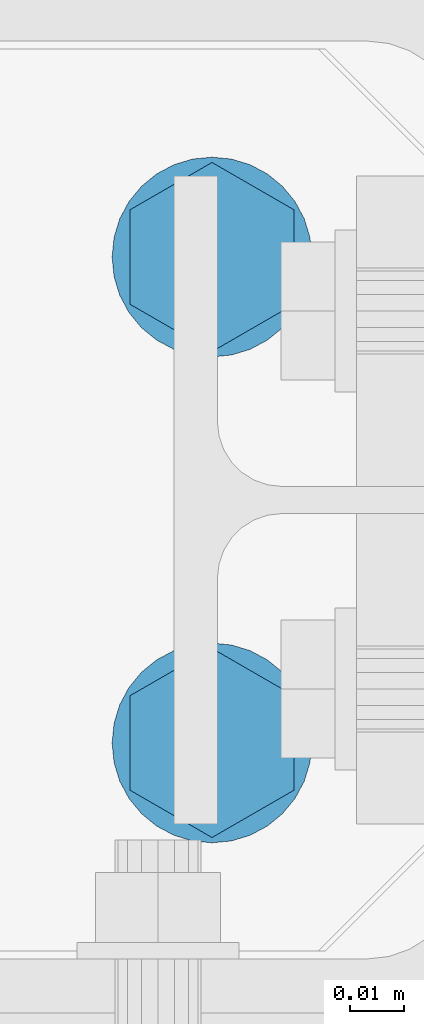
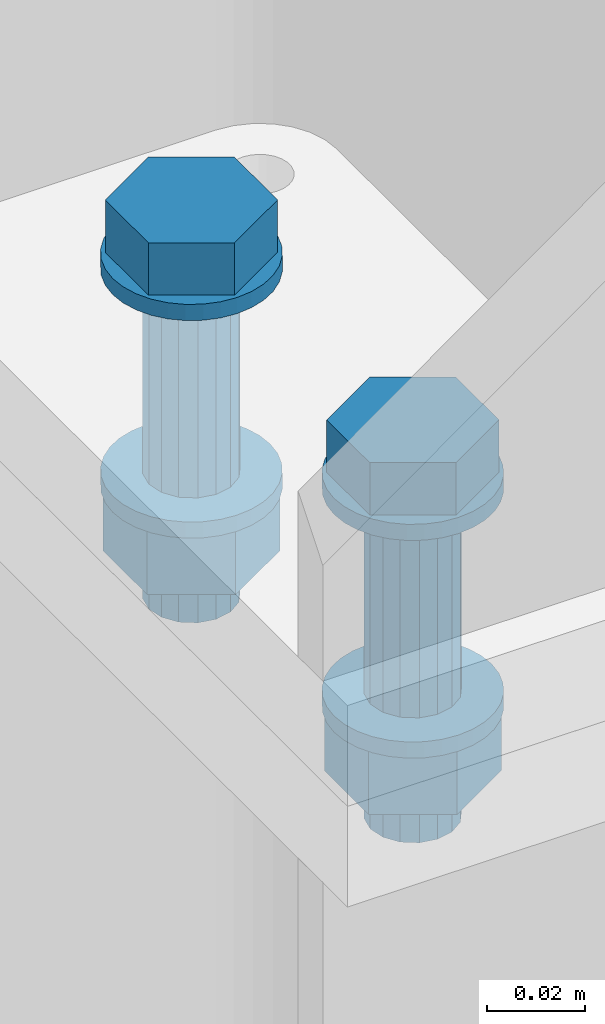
# One storey, part 385 of 825: 1 mechanical fastener.
"""IFC2X3 building model written with IfcOpenShell, lengths in millimetres."""

from ifc_helpers import new_model, entity, si_unit, converted_unit, origin_with_axes, place, context, project, spatial, faceted_brep, element, save


model = new_model("IFC2X3")

# Units and contexts
model_context = context("Model", 3, precision=1e-09, world=origin_with_axes())
ifc_project = project(units=[si_unit("LENGTHUNIT", "METRE", prefix="MILLI"), si_unit("AREAUNIT", "SQUARE_METRE"), si_unit("VOLUMEUNIT", "CUBIC_METRE"), converted_unit("PLANEANGLEUNIT", "DEGREE", entity("IfcPlaneAngleMeasure", 0.01745329), si_unit("PLANEANGLEUNIT", "RADIAN"), dimensions=[0, 0, 0, 0, 0, 0, 0])], contexts=[model_context])

# Site, building, storey
site_placement = place(None, origin_with_axes())
site = spatial("IfcSite", under=ifc_project, at=site_placement, Name="Cnopf'sche Kinderklinik", CompositionType="ELEMENT")
building_placement = place(site_placement, origin_with_axes())
building = spatial("IfcBuilding", under=site, at=building_placement, Name="Struktur 1", CompositionType="ELEMENT")
storey_placement = place(building_placement, origin_with_axes())
storey = spatial("IfcBuildingStorey", under=building, at=storey_placement, Name="Default Storey", CompositionType="ELEMENT", Elevation=0.0)

# Mechanical fastener
mechanical_fastener_placement = place(None, origin_with_axes())
element("IfcMechanicalFastener", 1, at=mechanical_fastener_placement, inside=storey, ObjectType="Bolt#1", NominalDiameter=20.0, NominalLength=85.0, context=model_context, shape_type="Brep", body=[
    faceted_brep([(4825.213402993, 7561.736971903, 7675.0), (4825.213402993, 7561.736971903, 7679.0), (4824.857930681, 7558.127800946, 7679.0), (4824.857930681, 7558.127800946, 7675.0), (4823.805174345, 7554.657328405, 7679.0), (4823.805174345, 7554.657328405, 7675.0), (4822.095590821, 7551.458922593, 7679.0), (4822.095590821, 7551.458922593, 7675.0), (4819.794878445, 7548.655496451, 7679.0), (4819.794878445, 7548.655496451, 7675.0), (4816.991452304, 7546.354784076, 7679.0), (4816.991452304, 7546.354784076, 7675.0), (4813.793046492, 7544.645200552, 7679.0), (4813.793046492, 7544.645200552, 7675.0), (4810.32257395, 7543.592444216, 7679.0), (4810.32257395, 7543.592444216, 7675.0), (4806.713402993, 7543.236971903, 7679.0), (4806.713402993, 7543.236971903, 7675.0), (4803.104232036, 7543.592444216, 7679.0), (4803.104232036, 7543.592444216, 7675.0), (4799.633759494, 7544.645200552, 7679.0), (4799.633759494, 7544.645200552, 7675.0), (4796.435353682, 7546.354784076, 7679.0), (4796.435353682, 7546.354784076, 7675.0), (4793.631927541, 7548.655496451, 7679.0), (4793.631927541, 7548.655496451, 7675.0), (4791.331215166, 7551.458922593, 7679.0), (4791.331215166, 7551.458922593, 7675.0), (4789.621631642, 7554.657328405, 7679.0), (4789.621631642, 7554.657328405, 7675.0), (4788.568875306, 7558.127800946, 7679.0), (4788.568875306, 7558.127800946, 7675.0), (4788.213402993, 7561.736971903, 7679.0), (4788.213402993, 7561.736971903, 7675.0), (4788.568875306, 7565.346142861, 7679.0), (4788.568875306, 7565.346142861, 7675.0), (4789.621631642, 7568.816615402, 7679.0), (4789.621631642, 7568.816615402, 7675.0), (4791.331215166, 7572.015021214, 7679.0), (4791.331215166, 7572.015021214, 7675.0), (4793.631927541, 7574.818447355, 7679.0), (4793.631927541, 7574.818447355, 7675.0), (4796.435353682, 7577.119159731, 7679.0), (4796.435353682, 7577.119159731, 7675.0), (4799.633759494, 7578.828743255, 7679.0), (4799.633759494, 7578.828743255, 7675.0), (4803.104232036, 7579.881499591, 7679.0), (4803.104232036, 7579.881499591, 7675.0), (4806.713402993, 7580.236971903, 7679.0), (4806.713402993, 7580.236971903, 7675.0), (4810.32257395, 7579.881499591, 7679.0), (4810.32257395, 7579.881499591, 7675.0), (4813.793046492, 7578.828743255, 7679.0), (4813.793046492, 7578.828743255, 7675.0), (4816.991452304, 7577.119159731, 7679.0), (4816.991452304, 7577.119159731, 7675.0), (4819.794878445, 7574.818447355, 7679.0), (4819.794878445, 7574.818447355, 7675.0), (4822.095590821, 7572.015021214, 7679.0), (4822.095590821, 7572.015021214, 7675.0), (4823.805174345, 7568.816615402, 7679.0), (4823.805174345, 7568.816615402, 7675.0), (4824.857930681, 7565.346142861, 7679.0), (4824.857930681, 7565.346142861, 7675.0)], [[[0, 1, 2, 3]], [[3, 2, 4, 5]], [[5, 4, 6, 7]], [[7, 6, 8, 9]], [[9, 8, 10, 11]], [[11, 10, 12, 13]], [[13, 12, 14, 15]], [[15, 14, 16, 17]], [[17, 16, 18, 19]], [[19, 18, 20, 21]], [[21, 20, 22, 23]], [[23, 22, 24, 25]], [[25, 24, 26, 27]], [[27, 26, 28, 29]], [[29, 28, 30, 31]], [[31, 30, 32, 33]], [[33, 32, 34, 35]], [[35, 34, 36, 37]], [[37, 36, 38, 39]], [[39, 38, 40, 41]], [[41, 40, 42, 43]], [[43, 42, 44, 45]], [[45, 44, 46, 47]], [[47, 46, 48, 49]], [[49, 48, 50, 51]], [[51, 50, 52, 53]], [[53, 52, 54, 55]], [[55, 54, 56, 57]], [[57, 56, 58, 59]], [[59, 58, 60, 61]], [[61, 60, 62, 63]], [[63, 62, 1, 0]], [[2, 1, 62, 60, 58, 56, 54, 52, 50, 48, 46, 44, 42, 40, 38, 36, 34, 32, 30, 28, 26, 24, 22, 20, 18, 16, 14, 12, 10, 8, 6, 4]], [[63, 0, 3, 5, 7, 9, 11, 13, 15, 17, 19, 21, 23, 25, 27, 29, 31, 33, 35, 37, 39, 41, 43, 45, 47, 49, 51, 53, 55, 57, 59, 61]]]),
    faceted_brep([(4825.213402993, 7471.736971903, 7675.0), (4825.213402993, 7471.736971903, 7679.0), (4824.857930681, 7468.127800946, 7679.0), (4824.857930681, 7468.127800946, 7675.0), (4823.805174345, 7464.657328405, 7679.0), (4823.805174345, 7464.657328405, 7675.0), (4822.095590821, 7461.458922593, 7679.0), (4822.095590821, 7461.458922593, 7675.0), (4819.794878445, 7458.655496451, 7679.0), (4819.794878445, 7458.655496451, 7675.0), (4816.991452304, 7456.354784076, 7679.0), (4816.991452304, 7456.354784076, 7675.0), (4813.793046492, 7454.645200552, 7679.0), (4813.793046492, 7454.645200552, 7675.0), (4810.32257395, 7453.592444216, 7679.0), (4810.32257395, 7453.592444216, 7675.0), (4806.713402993, 7453.236971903, 7679.0), (4806.713402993, 7453.236971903, 7675.0), (4803.104232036, 7453.592444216, 7679.0), (4803.104232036, 7453.592444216, 7675.0), (4799.633759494, 7454.645200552, 7679.0), (4799.633759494, 7454.645200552, 7675.0), (4796.435353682, 7456.354784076, 7679.0), (4796.435353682, 7456.354784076, 7675.0), (4793.631927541, 7458.655496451, 7679.0), (4793.631927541, 7458.655496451, 7675.0), (4791.331215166, 7461.458922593, 7679.0), (4791.331215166, 7461.458922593, 7675.0), (4789.621631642, 7464.657328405, 7679.0), (4789.621631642, 7464.657328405, 7675.0), (4788.568875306, 7468.127800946, 7679.0), (4788.568875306, 7468.127800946, 7675.0), (4788.213402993, 7471.736971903, 7679.0), (4788.213402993, 7471.736971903, 7675.0), (4788.568875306, 7475.346142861, 7679.0), (4788.568875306, 7475.346142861, 7675.0), (4789.621631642, 7478.816615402, 7679.0), (4789.621631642, 7478.816615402, 7675.0), (4791.331215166, 7482.015021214, 7679.0), (4791.331215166, 7482.015021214, 7675.0), (4793.631927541, 7484.818447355, 7679.0), (4793.631927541, 7484.818447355, 7675.0), (4796.435353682, 7487.119159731, 7679.0), (4796.435353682, 7487.119159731, 7675.0), (4799.633759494, 7488.828743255, 7679.0), (4799.633759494, 7488.828743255, 7675.0), (4803.104232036, 7489.881499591, 7679.0), (4803.104232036, 7489.881499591, 7675.0), (4806.713402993, 7490.236971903, 7679.0), (4806.713402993, 7490.236971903, 7675.0), (4810.32257395, 7489.881499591, 7679.0), (4810.32257395, 7489.881499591, 7675.0), (4813.793046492, 7488.828743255, 7679.0), (4813.793046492, 7488.828743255, 7675.0), (4816.991452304, 7487.119159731, 7679.0), (4816.991452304, 7487.119159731, 7675.0), (4819.794878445, 7484.818447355, 7679.0), (4819.794878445, 7484.818447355, 7675.0), (4822.095590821, 7482.015021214, 7679.0), (4822.095590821, 7482.015021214, 7675.0), (4823.805174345, 7478.816615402, 7679.0), (4823.805174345, 7478.816615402, 7675.0), (4824.857930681, 7475.346142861, 7679.0), (4824.857930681, 7475.346142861, 7675.0)], [[[0, 1, 2, 3]], [[3, 2, 4, 5]], [[5, 4, 6, 7]], [[7, 6, 8, 9]], [[9, 8, 10, 11]], [[11, 10, 12, 13]], [[13, 12, 14, 15]], [[15, 14, 16, 17]], [[17, 16, 18, 19]], [[19, 18, 20, 21]], [[21, 20, 22, 23]], [[23, 22, 24, 25]], [[25, 24, 26, 27]], [[27, 26, 28, 29]], [[29, 28, 30, 31]], [[31, 30, 32, 33]], [[33, 32, 34, 35]], [[35, 34, 36, 37]], [[37, 36, 38, 39]], [[39, 38, 40, 41]], [[41, 40, 42, 43]], [[43, 42, 44, 45]], [[45, 44, 46, 47]], [[47, 46, 48, 49]], [[49, 48, 50, 51]], [[51, 50, 52, 53]], [[53, 52, 54, 55]], [[55, 54, 56, 57]], [[57, 56, 58, 59]], [[59, 58, 60, 61]], [[61, 60, 62, 63]], [[63, 62, 1, 0]], [[2, 1, 62, 60, 58, 56, 54, 52, 50, 48, 46, 44, 42, 40, 38, 36, 34, 32, 30, 28, 26, 24, 22, 20, 18, 16, 14, 12, 10, 8, 6, 4]], [[63, 0, 3, 5, 7, 9, 11, 13, 15, 17, 19, 21, 23, 25, 27, 29, 31, 33, 35, 37, 39, 41, 43, 45, 47, 49, 51, 53, 55, 57, 59, 61]]]),
    faceted_brep([(4791.544968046, 7552.979471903, 7692.0), (4791.544968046, 7552.979471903, 7679.0), (4806.713402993, 7544.221971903, 7679.0), (4806.713402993, 7544.221971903, 7692.0), (4821.88183794, 7552.979471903, 7679.0), (4821.88183794, 7552.979471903, 7692.0), (4821.88183794, 7570.494471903, 7679.0), (4821.88183794, 7570.494471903, 7692.0), (4806.713402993, 7579.251971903, 7679.0), (4806.713402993, 7579.251971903, 7692.0), (4791.544968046, 7570.494471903, 7679.0), (4791.544968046, 7570.494471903, 7692.0)], [[[0, 1, 2, 3]], [[3, 2, 4, 5]], [[5, 4, 6, 7]], [[7, 6, 8, 9]], [[9, 8, 10, 11]], [[11, 10, 1, 0]], [[3, 5, 7, 9, 11, 0]], [[2, 1, 10, 8, 6, 4]]]),
    faceted_brep([(4791.544968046, 7462.979471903, 7692.0), (4791.544968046, 7462.979471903, 7679.0), (4806.713402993, 7454.221971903, 7679.0), (4806.713402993, 7454.221971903, 7692.0), (4821.88183794, 7462.979471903, 7679.0), (4821.88183794, 7462.979471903, 7692.0), (4821.88183794, 7480.494471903, 7679.0), (4821.88183794, 7480.494471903, 7692.0), (4806.713402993, 7489.251971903, 7679.0), (4806.713402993, 7489.251971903, 7692.0), (4791.544968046, 7480.494471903, 7679.0), (4791.544968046, 7480.494471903, 7692.0)], [[[0, 1, 2, 3]], [[3, 2, 4, 5]], [[5, 4, 6, 7]], [[7, 6, 8, 9]], [[9, 8, 10, 11]], [[11, 10, 1, 0]], [[3, 5, 7, 9, 11, 0]], [[2, 1, 10, 8, 6, 4]]]),
    faceted_brep([(4816.713402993, 7561.736971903, 7625.0), (4816.713402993, 7561.736971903, 7675.0), (4815.952198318, 7557.91013758, 7675.0), (4815.952198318, 7557.91013758, 7625.0), (4813.784470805, 7554.665904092, 7675.0), (4813.784470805, 7554.665904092, 7625.0), (4810.540237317, 7552.498176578, 7675.0), (4810.540237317, 7552.498176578, 7625.0), (4806.713402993, 7551.736971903, 7675.0), (4806.713402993, 7551.736971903, 7625.0), (4802.88656867, 7552.498176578, 7675.0), (4802.88656867, 7552.498176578, 7625.0), (4799.642335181, 7554.665904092, 7675.0), (4799.642335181, 7554.665904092, 7625.0), (4797.474607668, 7557.91013758, 7675.0), (4797.474607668, 7557.91013758, 7625.0), (4796.713402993, 7561.736971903, 7675.0), (4796.713402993, 7561.736971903, 7625.0), (4797.474607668, 7565.563806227, 7675.0), (4797.474607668, 7565.563806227, 7625.0), (4799.642335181, 7568.808039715, 7675.0), (4799.642335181, 7568.808039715, 7625.0), (4802.88656867, 7570.975767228, 7675.0), (4802.88656867, 7570.975767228, 7625.0), (4806.713402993, 7571.736971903, 7675.0), (4806.713402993, 7571.736971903, 7625.0), (4810.540237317, 7570.975767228, 7675.0), (4810.540237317, 7570.975767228, 7625.0), (4813.784470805, 7568.808039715, 7675.0), (4813.784470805, 7568.808039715, 7625.0), (4815.952198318, 7565.563806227, 7675.0), (4815.952198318, 7565.563806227, 7625.0)], [[[0, 1, 2, 3]], [[3, 2, 4, 5]], [[5, 4, 6, 7]], [[7, 6, 8, 9]], [[9, 8, 10, 11]], [[11, 10, 12, 13]], [[13, 12, 14, 15]], [[15, 14, 16, 17]], [[17, 16, 18, 19]], [[19, 18, 20, 21]], [[21, 20, 22, 23]], [[23, 22, 24, 25]], [[25, 24, 26, 27]], [[27, 26, 28, 29]], [[29, 28, 30, 31]], [[31, 30, 1, 0]], [[2, 1, 30, 28, 26, 24, 22, 20, 18, 16, 14, 12, 10, 8, 6, 4]], [[31, 0, 3, 5, 7, 9, 11, 13, 15, 17, 19, 21, 23, 25, 27, 29]]]),
    faceted_brep([(4816.713402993, 7471.736971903, 7625.0), (4816.713402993, 7471.736971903, 7675.0), (4815.952198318, 7467.91013758, 7675.0), (4815.952198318, 7467.91013758, 7625.0), (4813.784470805, 7464.665904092, 7675.0), (4813.784470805, 7464.665904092, 7625.0), (4810.540237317, 7462.498176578, 7675.0), (4810.540237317, 7462.498176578, 7625.0), (4806.713402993, 7461.736971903, 7675.0), (4806.713402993, 7461.736971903, 7625.0), (4802.88656867, 7462.498176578, 7675.0), (4802.88656867, 7462.498176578, 7625.0), (4799.642335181, 7464.665904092, 7675.0), (4799.642335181, 7464.665904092, 7625.0), (4797.474607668, 7467.91013758, 7675.0), (4797.474607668, 7467.91013758, 7625.0), (4796.713402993, 7471.736971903, 7675.0), (4796.713402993, 7471.736971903, 7625.0), (4797.474607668, 7475.563806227, 7675.0), (4797.474607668, 7475.563806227, 7625.0), (4799.642335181, 7478.808039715, 7675.0), (4799.642335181, 7478.808039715, 7625.0), (4802.88656867, 7480.975767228, 7675.0), (4802.88656867, 7480.975767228, 7625.0), (4806.713402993, 7481.736971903, 7675.0), (4806.713402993, 7481.736971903, 7625.0), (4810.540237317, 7480.975767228, 7675.0), (4810.540237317, 7480.975767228, 7625.0), (4813.784470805, 7478.808039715, 7675.0), (4813.784470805, 7478.808039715, 7625.0), (4815.952198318, 7475.563806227, 7675.0), (4815.952198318, 7475.563806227, 7625.0)], [[[0, 1, 2, 3]], [[3, 2, 4, 5]], [[5, 4, 6, 7]], [[7, 6, 8, 9]], [[9, 8, 10, 11]], [[11, 10, 12, 13]], [[13, 12, 14, 15]], [[15, 14, 16, 17]], [[17, 16, 18, 19]], [[19, 18, 20, 21]], [[21, 20, 22, 23]], [[23, 22, 24, 25]], [[25, 24, 26, 27]], [[27, 26, 28, 29]], [[29, 28, 30, 31]], [[31, 30, 1, 0]], [[2, 1, 30, 28, 26, 24, 22, 20, 18, 16, 14, 12, 10, 8, 6, 4]], [[31, 0, 3, 5, 7, 9, 11, 13, 15, 17, 19, 21, 23, 25, 27, 29]]]),
    faceted_brep([(4825.213402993, 7561.736971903, 7621.0), (4825.213402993, 7561.736971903, 7625.0), (4824.857930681, 7558.127800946, 7625.0), (4824.857930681, 7558.127800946, 7621.0), (4823.805174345, 7554.657328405, 7625.0), (4823.805174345, 7554.657328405, 7621.0), (4822.095590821, 7551.458922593, 7625.0), (4822.095590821, 7551.458922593, 7621.0), (4819.794878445, 7548.655496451, 7625.0), (4819.794878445, 7548.655496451, 7621.0), (4816.991452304, 7546.354784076, 7625.0), (4816.991452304, 7546.354784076, 7621.0), (4813.793046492, 7544.645200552, 7625.0), (4813.793046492, 7544.645200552, 7621.0), (4810.32257395, 7543.592444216, 7625.0), (4810.32257395, 7543.592444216, 7621.0), (4806.713402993, 7543.236971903, 7625.0), (4806.713402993, 7543.236971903, 7621.0), (4803.104232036, 7543.592444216, 7625.0), (4803.104232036, 7543.592444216, 7621.0), (4799.633759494, 7544.645200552, 7625.0), (4799.633759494, 7544.645200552, 7621.0), (4796.435353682, 7546.354784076, 7625.0), (4796.435353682, 7546.354784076, 7621.0), (4793.631927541, 7548.655496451, 7625.0), (4793.631927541, 7548.655496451, 7621.0), (4791.331215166, 7551.458922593, 7625.0), (4791.331215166, 7551.458922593, 7621.0), (4789.621631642, 7554.657328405, 7625.0), (4789.621631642, 7554.657328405, 7621.0), (4788.568875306, 7558.127800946, 7625.0), (4788.568875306, 7558.127800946, 7621.0), (4788.213402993, 7561.736971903, 7625.0), (4788.213402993, 7561.736971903, 7621.0), (4788.568875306, 7565.346142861, 7625.0), (4788.568875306, 7565.346142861, 7621.0), (4789.621631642, 7568.816615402, 7625.0), (4789.621631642, 7568.816615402, 7621.0), (4791.331215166, 7572.015021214, 7625.0), (4791.331215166, 7572.015021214, 7621.0), (4793.631927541, 7574.818447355, 7625.0), (4793.631927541, 7574.818447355, 7621.0), (4796.435353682, 7577.119159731, 7625.0), (4796.435353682, 7577.119159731, 7621.0), (4799.633759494, 7578.828743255, 7625.0), (4799.633759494, 7578.828743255, 7621.0), (4803.104232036, 7579.881499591, 7625.0), (4803.104232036, 7579.881499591, 7621.0), (4806.713402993, 7580.236971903, 7625.0), (4806.713402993, 7580.236971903, 7621.0), (4810.32257395, 7579.881499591, 7625.0), (4810.32257395, 7579.881499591, 7621.0), (4813.793046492, 7578.828743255, 7625.0), (4813.793046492, 7578.828743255, 7621.0), (4816.991452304, 7577.119159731, 7625.0), (4816.991452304, 7577.119159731, 7621.0), (4819.794878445, 7574.818447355, 7625.0), (4819.794878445, 7574.818447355, 7621.0), (4822.095590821, 7572.015021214, 7625.0), (4822.095590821, 7572.015021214, 7621.0), (4823.805174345, 7568.816615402, 7625.0), (4823.805174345, 7568.816615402, 7621.0), (4824.857930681, 7565.346142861, 7625.0), (4824.857930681, 7565.346142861, 7621.0)], [[[0, 1, 2, 3]], [[3, 2, 4, 5]], [[5, 4, 6, 7]], [[7, 6, 8, 9]], [[9, 8, 10, 11]], [[11, 10, 12, 13]], [[13, 12, 14, 15]], [[15, 14, 16, 17]], [[17, 16, 18, 19]], [[19, 18, 20, 21]], [[21, 20, 22, 23]], [[23, 22, 24, 25]], [[25, 24, 26, 27]], [[27, 26, 28, 29]], [[29, 28, 30, 31]], [[31, 30, 32, 33]], [[33, 32, 34, 35]], [[35, 34, 36, 37]], [[37, 36, 38, 39]], [[39, 38, 40, 41]], [[41, 40, 42, 43]], [[43, 42, 44, 45]], [[45, 44, 46, 47]], [[47, 46, 48, 49]], [[49, 48, 50, 51]], [[51, 50, 52, 53]], [[53, 52, 54, 55]], [[55, 54, 56, 57]], [[57, 56, 58, 59]], [[59, 58, 60, 61]], [[61, 60, 62, 63]], [[63, 62, 1, 0]], [[2, 1, 62, 60, 58, 56, 54, 52, 50, 48, 46, 44, 42, 40, 38, 36, 34, 32, 30, 28, 26, 24, 22, 20, 18, 16, 14, 12, 10, 8, 6, 4]], [[63, 0, 3, 5, 7, 9, 11, 13, 15, 17, 19, 21, 23, 25, 27, 29, 31, 33, 35, 37, 39, 41, 43, 45, 47, 49, 51, 53, 55, 57, 59, 61]]]),
    faceted_brep([(4825.213402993, 7471.736971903, 7621.0), (4825.213402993, 7471.736971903, 7625.0), (4824.857930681, 7468.127800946, 7625.0), (4824.857930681, 7468.127800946, 7621.0), (4823.805174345, 7464.657328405, 7625.0), (4823.805174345, 7464.657328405, 7621.0), (4822.095590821, 7461.458922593, 7625.0), (4822.095590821, 7461.458922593, 7621.0), (4819.794878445, 7458.655496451, 7625.0), (4819.794878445, 7458.655496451, 7621.0), (4816.991452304, 7456.354784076, 7625.0), (4816.991452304, 7456.354784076, 7621.0), (4813.793046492, 7454.645200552, 7625.0), (4813.793046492, 7454.645200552, 7621.0), (4810.32257395, 7453.592444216, 7625.0), (4810.32257395, 7453.592444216, 7621.0), (4806.713402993, 7453.236971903, 7625.0), (4806.713402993, 7453.236971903, 7621.0), (4803.104232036, 7453.592444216, 7625.0), (4803.104232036, 7453.592444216, 7621.0), (4799.633759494, 7454.645200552, 7625.0), (4799.633759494, 7454.645200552, 7621.0), (4796.435353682, 7456.354784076, 7625.0), (4796.435353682, 7456.354784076, 7621.0), (4793.631927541, 7458.655496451, 7625.0), (4793.631927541, 7458.655496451, 7621.0), (4791.331215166, 7461.458922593, 7625.0), (4791.331215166, 7461.458922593, 7621.0), (4789.621631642, 7464.657328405, 7625.0), (4789.621631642, 7464.657328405, 7621.0), (4788.568875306, 7468.127800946, 7625.0), (4788.568875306, 7468.127800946, 7621.0), (4788.213402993, 7471.736971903, 7625.0), (4788.213402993, 7471.736971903, 7621.0), (4788.568875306, 7475.346142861, 7625.0), (4788.568875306, 7475.346142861, 7621.0), (4789.621631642, 7478.816615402, 7625.0), (4789.621631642, 7478.816615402, 7621.0), (4791.331215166, 7482.015021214, 7625.0), (4791.331215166, 7482.015021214, 7621.0), (4793.631927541, 7484.818447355, 7625.0), (4793.631927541, 7484.818447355, 7621.0), (4796.435353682, 7487.119159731, 7625.0), (4796.435353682, 7487.119159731, 7621.0), (4799.633759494, 7488.828743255, 7625.0), (4799.633759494, 7488.828743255, 7621.0), (4803.104232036, 7489.881499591, 7625.0), (4803.104232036, 7489.881499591, 7621.0), (4806.713402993, 7490.236971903, 7625.0), (4806.713402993, 7490.236971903, 7621.0), (4810.32257395, 7489.881499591, 7625.0), (4810.32257395, 7489.881499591, 7621.0), (4813.793046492, 7488.828743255, 7625.0), (4813.793046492, 7488.828743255, 7621.0), (4816.991452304, 7487.119159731, 7625.0), (4816.991452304, 7487.119159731, 7621.0), (4819.794878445, 7484.818447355, 7625.0), (4819.794878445, 7484.818447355, 7621.0), (4822.095590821, 7482.015021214, 7625.0), (4822.095590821, 7482.015021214, 7621.0), (4823.805174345, 7478.816615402, 7625.0), (4823.805174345, 7478.816615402, 7621.0), (4824.857930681, 7475.346142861, 7625.0), (4824.857930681, 7475.346142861, 7621.0)], [[[0, 1, 2, 3]], [[3, 2, 4, 5]], [[5, 4, 6, 7]], [[7, 6, 8, 9]], [[9, 8, 10, 11]], [[11, 10, 12, 13]], [[13, 12, 14, 15]], [[15, 14, 16, 17]], [[17, 16, 18, 19]], [[19, 18, 20, 21]], [[21, 20, 22, 23]], [[23, 22, 24, 25]], [[25, 24, 26, 27]], [[27, 26, 28, 29]], [[29, 28, 30, 31]], [[31, 30, 32, 33]], [[33, 32, 34, 35]], [[35, 34, 36, 37]], [[37, 36, 38, 39]], [[39, 38, 40, 41]], [[41, 40, 42, 43]], [[43, 42, 44, 45]], [[45, 44, 46, 47]], [[47, 46, 48, 49]], [[49, 48, 50, 51]], [[51, 50, 52, 53]], [[53, 52, 54, 55]], [[55, 54, 56, 57]], [[57, 56, 58, 59]], [[59, 58, 60, 61]], [[61, 60, 62, 63]], [[63, 62, 1, 0]], [[2, 1, 62, 60, 58, 56, 54, 52, 50, 48, 46, 44, 42, 40, 38, 36, 34, 32, 30, 28, 26, 24, 22, 20, 18, 16, 14, 12, 10, 8, 6, 4]], [[63, 0, 3, 5, 7, 9, 11, 13, 15, 17, 19, 21, 23, 25, 27, 29, 31, 33, 35, 37, 39, 41, 43, 45, 47, 49, 51, 53, 55, 57, 59, 61]]]),
    faceted_brep([(4791.124945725, 7552.736971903, 7621.0), (4791.124945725, 7552.736971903, 7605.0), (4806.713402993, 7543.736971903, 7605.0), (4806.713402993, 7543.736971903, 7621.0), (4822.301860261, 7552.736971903, 7605.0), (4822.301860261, 7552.736971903, 7621.0), (4822.301860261, 7570.736971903, 7605.0), (4822.301860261, 7570.736971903, 7621.0), (4806.713402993, 7579.736971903, 7605.0), (4806.713402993, 7579.736971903, 7621.0), (4791.124945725, 7570.736971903, 7605.0), (4791.124945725, 7570.736971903, 7621.0)], [[[0, 1, 2, 3]], [[3, 2, 4, 5]], [[5, 4, 6, 7]], [[7, 6, 8, 9]], [[9, 8, 10, 11]], [[11, 10, 1, 0]], [[3, 5, 7, 9, 11, 0]], [[2, 1, 10, 8, 6, 4]]]),
    faceted_brep([(4791.124945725, 7462.736971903, 7621.0), (4791.124945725, 7462.736971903, 7605.0), (4806.713402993, 7453.736971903, 7605.0), (4806.713402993, 7453.736971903, 7621.0), (4822.301860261, 7462.736971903, 7605.0), (4822.301860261, 7462.736971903, 7621.0), (4822.301860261, 7480.736971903, 7605.0), (4822.301860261, 7480.736971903, 7621.0), (4806.713402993, 7489.736971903, 7605.0), (4806.713402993, 7489.736971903, 7621.0), (4791.124945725, 7480.736971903, 7605.0), (4791.124945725, 7480.736971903, 7621.0)], [[[0, 1, 2, 3]], [[3, 2, 4, 5]], [[5, 4, 6, 7]], [[7, 6, 8, 9]], [[9, 8, 10, 11]], [[11, 10, 1, 0]], [[3, 5, 7, 9, 11, 0]], [[2, 1, 10, 8, 6, 4]]]),
    faceted_brep([(4816.713402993, 7561.736971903, 7594.0), (4816.713402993, 7561.736971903, 7605.0), (4815.952198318, 7557.91013758, 7605.0), (4815.952198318, 7557.91013758, 7594.0), (4813.784470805, 7554.665904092, 7605.0), (4813.784470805, 7554.665904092, 7594.0), (4810.540237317, 7552.498176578, 7605.0), (4810.540237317, 7552.498176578, 7594.0), (4806.713402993, 7551.736971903, 7605.0), (4806.713402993, 7551.736971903, 7594.0), (4802.88656867, 7552.498176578, 7605.0), (4802.88656867, 7552.498176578, 7594.0), (4799.642335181, 7554.665904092, 7605.0), (4799.642335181, 7554.665904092, 7594.0), (4797.474607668, 7557.91013758, 7605.0), (4797.474607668, 7557.91013758, 7594.0), (4796.713402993, 7561.736971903, 7605.0), (4796.713402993, 7561.736971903, 7594.0), (4797.474607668, 7565.563806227, 7605.0), (4797.474607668, 7565.563806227, 7594.0), (4799.642335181, 7568.808039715, 7605.0), (4799.642335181, 7568.808039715, 7594.0), (4802.88656867, 7570.975767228, 7605.0), (4802.88656867, 7570.975767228, 7594.0), (4806.713402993, 7571.736971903, 7605.0), (4806.713402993, 7571.736971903, 7594.0), (4810.540237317, 7570.975767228, 7605.0), (4810.540237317, 7570.975767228, 7594.0), (4813.784470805, 7568.808039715, 7605.0), (4813.784470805, 7568.808039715, 7594.0), (4815.952198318, 7565.563806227, 7605.0), (4815.952198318, 7565.563806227, 7594.0)], [[[0, 1, 2, 3]], [[3, 2, 4, 5]], [[5, 4, 6, 7]], [[7, 6, 8, 9]], [[9, 8, 10, 11]], [[11, 10, 12, 13]], [[13, 12, 14, 15]], [[15, 14, 16, 17]], [[17, 16, 18, 19]], [[19, 18, 20, 21]], [[21, 20, 22, 23]], [[23, 22, 24, 25]], [[25, 24, 26, 27]], [[27, 26, 28, 29]], [[29, 28, 30, 31]], [[31, 30, 1, 0]], [[2, 1, 30, 28, 26, 24, 22, 20, 18, 16, 14, 12, 10, 8, 6, 4]], [[31, 0, 3, 5, 7, 9, 11, 13, 15, 17, 19, 21, 23, 25, 27, 29]]]),
    faceted_brep([(4816.713402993, 7471.736971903, 7594.0), (4816.713402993, 7471.736971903, 7605.0), (4815.952198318, 7467.91013758, 7605.0), (4815.952198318, 7467.91013758, 7594.0), (4813.784470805, 7464.665904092, 7605.0), (4813.784470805, 7464.665904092, 7594.0), (4810.540237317, 7462.498176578, 7605.0), (4810.540237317, 7462.498176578, 7594.0), (4806.713402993, 7461.736971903, 7605.0), (4806.713402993, 7461.736971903, 7594.0), (4802.88656867, 7462.498176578, 7605.0), (4802.88656867, 7462.498176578, 7594.0), (4799.642335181, 7464.665904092, 7605.0), (4799.642335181, 7464.665904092, 7594.0), (4797.474607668, 7467.91013758, 7605.0), (4797.474607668, 7467.91013758, 7594.0), (4796.713402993, 7471.736971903, 7605.0), (4796.713402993, 7471.736971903, 7594.0), (4797.474607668, 7475.563806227, 7605.0), (4797.474607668, 7475.563806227, 7594.0), (4799.642335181, 7478.808039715, 7605.0), (4799.642335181, 7478.808039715, 7594.0), (4802.88656867, 7480.975767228, 7605.0), (4802.88656867, 7480.975767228, 7594.0), (4806.713402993, 7481.736971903, 7605.0), (4806.713402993, 7481.736971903, 7594.0), (4810.540237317, 7480.975767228, 7605.0), (4810.540237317, 7480.975767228, 7594.0), (4813.784470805, 7478.808039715, 7605.0), (4813.784470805, 7478.808039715, 7594.0), (4815.952198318, 7475.563806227, 7605.0), (4815.952198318, 7475.563806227, 7594.0)], [[[0, 1, 2, 3]], [[3, 2, 4, 5]], [[5, 4, 6, 7]], [[7, 6, 8, 9]], [[9, 8, 10, 11]], [[11, 10, 12, 13]], [[13, 12, 14, 15]], [[15, 14, 16, 17]], [[17, 16, 18, 19]], [[19, 18, 20, 21]], [[21, 20, 22, 23]], [[23, 22, 24, 25]], [[25, 24, 26, 27]], [[27, 26, 28, 29]], [[29, 28, 30, 31]], [[31, 30, 1, 0]], [[2, 1, 30, 28, 26, 24, 22, 20, 18, 16, 14, 12, 10, 8, 6, 4]], [[31, 0, 3, 5, 7, 9, 11, 13, 15, 17, 19, 21, 23, 25, 27, 29]]]),
])

save(model, "model.ifc")
